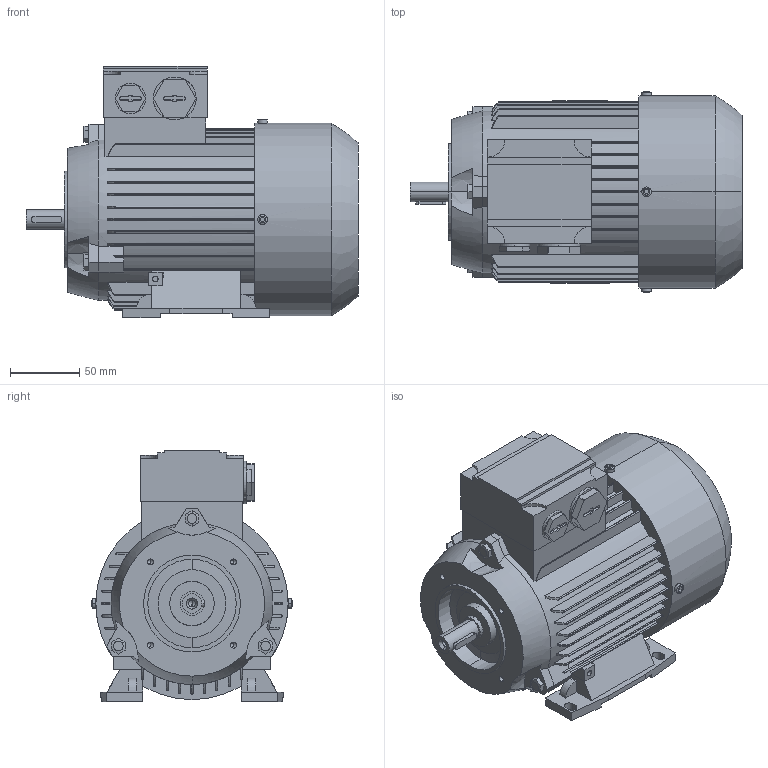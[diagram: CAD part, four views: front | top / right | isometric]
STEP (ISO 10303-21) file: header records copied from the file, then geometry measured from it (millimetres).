
FILE_DESCRIPTION (( 'STEP AP214' ), '1' );
FILE_NAME ('5RN71M06E22 IM2181-A.STEP', '2022-08-01T09:45:29', ( '' ), ( '' ), 'SwSTEP 2.0', 'SolidWorks 2021', '' );
FILE_SCHEMA (( 'AUTOMOTIVE_DESIGN' ));
Length unit declared in the file: millimetre
Products named in the file (1): 5RN71M06E22 IM2181-A
Bounding box: 240 x 145 x 181.8 mm (x, y, z)
Volume: 2936256.4 mm3; surface area: 198537.6 mm2
Topology: 1 solids, 1 shells, 589 faces, 1606 edges, 1045 vertices
Faces by surface type: plane 359, cylinder 156, torus 38, cone 36
Entity records: 20234 total; most frequent: CARTESIAN_POINT 5057, ORIENTED_EDGE 3192, DIRECTION 3073, EDGE_CURVE 1596, VERTEX_POINT 1045, AXIS2_PLACEMENT_3D 1038, LINE 997, VECTOR 997
